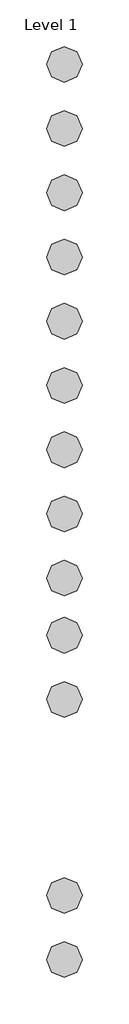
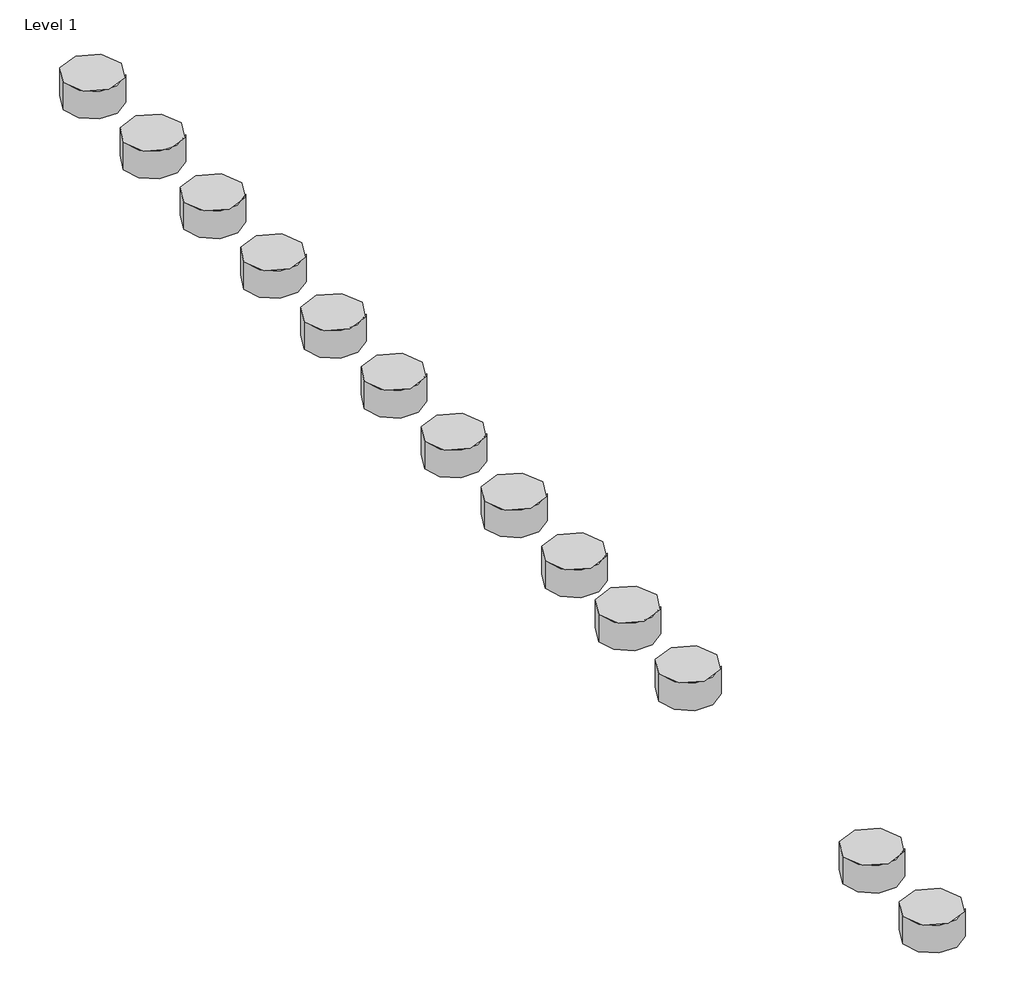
# One storey, incomplete: 13 proxies.
"""IFC4 building model written with IfcOpenShell, lengths in millimetres."""

from ifc_helpers import new_model, si_unit, origin, place, context, project, spatial, transform, mapped, element, save
from components import materialmodel_materialmodel_02e69005

model = new_model("IFC4")

# Units and contexts
model_context = context("Model", 3, world=origin())
ifc_project = project(units=[si_unit("LENGTHUNIT", "METRE", prefix="MILLI")], contexts=[model_context])

# Site, building, storey
site = spatial("IfcSite", under=ifc_project)
building = spatial("IfcBuilding", under=site)
storey = spatial("IfcBuildingStorey", under=building, Name="Level 1", Elevation=0.0)

# Proxies
placement = place(None, origin())
materialmodel_materialmodel_shape = materialmodel_materialmodel_02e69005(model_context)
element("IfcBuildingElementProxy", 1, Name="MaterialModel : MaterialModel", ObjectType="MaterialModel : MaterialModel", at=placement, inside=storey, context=model_context, shape_type="MappedRepresentation", body=[
    mapped(materialmodel_materialmodel_shape, transform((-5552.1657896, 4174.5048486, 0.0), x_axis=(1.0, 0.0, 0.0), y_axis=(0.0, 1.0, 0.0), z_axis=(0.0, 0.0, 1.0))),
])
element("IfcBuildingElementProxy", 2, Name="MaterialModel : MaterialModel", ObjectType="MaterialModel : MaterialModel", at=placement, inside=storey, context=model_context, shape_type="MappedRepresentation", body=[
    mapped(materialmodel_materialmodel_shape, transform((-5552.1657896, 3994.5048486, 0.0), x_axis=(1.0, 0.0, 0.0), y_axis=(0.0, 1.0, 0.0), z_axis=(0.0, 0.0, 1.0))),
])
element("IfcBuildingElementProxy", 3, Name="MaterialModel : MaterialModel", ObjectType="MaterialModel : MaterialModel", at=placement, inside=storey, context=model_context, shape_type="MappedRepresentation", body=[
    mapped(materialmodel_materialmodel_shape, transform((-5552.1657896, 3814.5048486, 0.0), x_axis=(1.0, 0.0, 0.0), y_axis=(0.0, 1.0, 0.0), z_axis=(0.0, 0.0, 1.0))),
])
element("IfcBuildingElementProxy", 4, Name="MaterialModel : MaterialModel", ObjectType="MaterialModel : MaterialModel", at=placement, inside=storey, context=model_context, shape_type="MappedRepresentation", body=[
    mapped(materialmodel_materialmodel_shape, transform((-5552.1657896, 3634.5048486, 0.0), x_axis=(1.0, 0.0, 0.0), y_axis=(0.0, 1.0, 0.0), z_axis=(0.0, 0.0, 1.0))),
])
element("IfcBuildingElementProxy", 5, Name="MaterialModel : MaterialModel", ObjectType="MaterialModel : MaterialModel", at=placement, inside=storey, context=model_context, shape_type="MappedRepresentation", body=[
    mapped(materialmodel_materialmodel_shape, transform((-5552.1657896, 3454.5048486, 0.0), x_axis=(1.0, 0.0, 0.0), y_axis=(0.0, 1.0, 0.0), z_axis=(0.0, 0.0, 1.0))),
])
element("IfcBuildingElementProxy", 6, Name="MaterialModel : MaterialModel", ObjectType="MaterialModel : MaterialModel", at=placement, inside=storey, context=model_context, shape_type="MappedRepresentation", body=[
    mapped(materialmodel_materialmodel_shape, transform((-5552.1657896, 3274.5048486, 0.0), x_axis=(1.0, 0.0, 0.0), y_axis=(0.0, 1.0, 0.0), z_axis=(0.0, 0.0, 1.0))),
])
element("IfcBuildingElementProxy", 7, Name="MaterialModel : MaterialModel", ObjectType="MaterialModel : MaterialModel", at=placement, inside=storey, context=model_context, shape_type="MappedRepresentation", body=[
    mapped(materialmodel_materialmodel_shape, transform((-5552.1657896, 3094.5048486, 0.0), x_axis=(1.0, 0.0, 0.0), y_axis=(0.0, 1.0, 0.0), z_axis=(0.0, 0.0, 1.0))),
])
element("IfcBuildingElementProxy", 8, Name="MaterialModel : MaterialModel", ObjectType="MaterialModel : MaterialModel", at=placement, inside=storey, context=model_context, shape_type="MappedRepresentation", body=[
    mapped(materialmodel_materialmodel_shape, transform((-5552.1657896, 2914.5048486, 0.0), x_axis=(1.0, 0.0, 0.0), y_axis=(0.0, 1.0, 0.0), z_axis=(0.0, 0.0, 1.0))),
])
element("IfcBuildingElementProxy", 9, Name="MaterialModel : MaterialModel", ObjectType="MaterialModel : MaterialModel", at=placement, inside=storey, context=model_context, shape_type="MappedRepresentation", body=[
    mapped(materialmodel_materialmodel_shape, transform((-5552.1657896, 2734.5048486, 0.0), x_axis=(1.0, 0.0, 0.0), y_axis=(0.0, 1.0, 0.0), z_axis=(0.0, 0.0, 1.0))),
])
element("IfcBuildingElementProxy", 10, Name="MaterialModel : MaterialModel", ObjectType="MaterialModel : MaterialModel", at=placement, inside=storey, context=model_context, shape_type="MappedRepresentation", body=[
    mapped(materialmodel_materialmodel_shape, transform((-5552.1657896, 2574.5048486, 0.0), x_axis=(1.0, 0.0, 0.0), y_axis=(0.0, 1.0, 0.0), z_axis=(0.0, 0.0, 1.0))),
])
element("IfcBuildingElementProxy", 11, Name="MaterialModel : MaterialModel", ObjectType="MaterialModel : MaterialModel", at=placement, inside=storey, context=model_context, shape_type="MappedRepresentation", body=[
    mapped(materialmodel_materialmodel_shape, transform((-5552.1657896, 2394.5048486, 0.0), x_axis=(1.0, 0.0, 0.0), y_axis=(0.0, 1.0, 0.0), z_axis=(0.0, 0.0, 1.0))),
])
element("IfcBuildingElementProxy", 12, Name="MaterialModel : MaterialModel", ObjectType="MaterialModel : MaterialModel", at=placement, inside=storey, context=model_context, shape_type="MappedRepresentation", body=[
    mapped(materialmodel_materialmodel_shape, transform((-5552.1657896, 1845.2505234, 0.0), x_axis=(1.0, 0.0, 0.0), y_axis=(0.0, 1.0, 0.0), z_axis=(0.0, 0.0, 1.0))),
])
element("IfcBuildingElementProxy", 13, Name="MaterialModel : MaterialModel", ObjectType="MaterialModel : MaterialModel", at=placement, inside=storey, context=model_context, shape_type="MappedRepresentation", body=[
    mapped(materialmodel_materialmodel_shape, transform((-5552.1657896, 1665.2505234, 0.0), x_axis=(1.0, 0.0, 0.0), y_axis=(0.0, 1.0, 0.0), z_axis=(0.0, 0.0, 1.0))),
])

save(model, "model.ifc")
